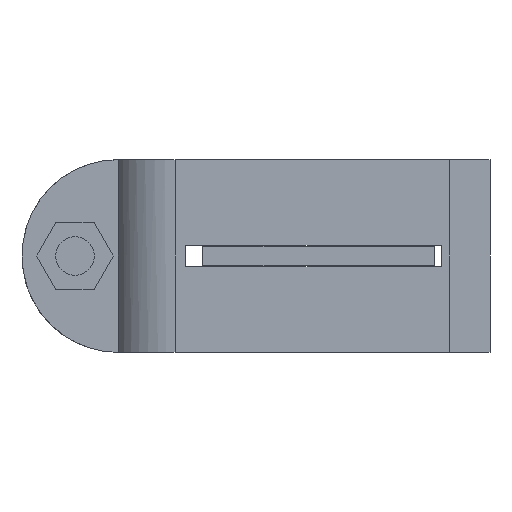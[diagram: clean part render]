
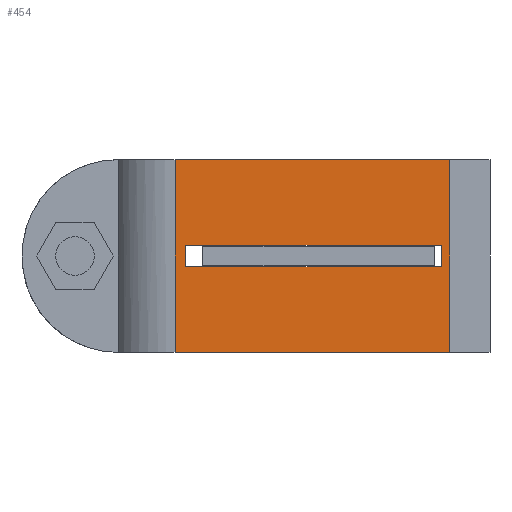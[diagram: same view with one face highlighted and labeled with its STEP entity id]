
A CAD part, front view. The second image highlights one B-rep face of the part: STEP entity #454.
In plain terms, the highlighted planar face has unit normal (0, -1, 0).
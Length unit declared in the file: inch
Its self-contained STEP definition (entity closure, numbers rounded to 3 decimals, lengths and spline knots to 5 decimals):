
#394=EDGE_CURVE('',#1012,#1013,#1014,.T.);
#454=ADVANCED_FACE('',(#1109,#1110),#1111,.T.);
#512=EDGE_CURVE('',#1191,#1192,#1193,.T.);
#562=EDGE_CURVE('',#977,#1192,#1267,.T.);
#598=EDGE_CURVE('',#1316,#1012,#1317,.T.);
#600=EDGE_CURVE('',#977,#1311,#1319,.T.);
#652=EDGE_CURVE('',#1311,#1191,#1389,.T.);
#710=EDGE_CURVE('',#1278,#1316,#1461,.T.);
#716=EDGE_CURVE('',#1013,#1278,#1467,.T.);
#977=VERTEX_POINT('',#1808);
#1012=VERTEX_POINT('',#1861);
#1013=VERTEX_POINT('',#1862);
#1014=LINE('',#1863,#1864);
#1109=FACE_BOUND('',#2014,.T.);
#1110=FACE_OUTER_BOUND('',#2015,.T.);
#1111=PLANE('',#2016);
#1191=VERTEX_POINT('',#2149);
#1192=VERTEX_POINT('',#2150);
#1193=LINE('',#2151,#2152);
#1267=LINE('',#2279,#2280);
#1278=VERTEX_POINT('',#2297);
#1311=VERTEX_POINT('',#2346);
#1316=VERTEX_POINT('',#2352);
#1317=LINE('',#2353,#2354);
#1319=LINE('',#2357,#2358);
#1389=LINE('',#2490,#2491);
#1461=LINE('',#2617,#2618);
#1467=LINE('',#2629,#2630);
#1808=CARTESIAN_POINT('',(0.77397,0.42474,0.00009));
#1861=CARTESIAN_POINT('',(0.84444,0.42474,0.55499));
#1862=CARTESIAN_POINT('',(0.84444,0.42474,0.69499));
#1863=CARTESIAN_POINT('',(0.84444,0.42474,0.31249));
#1864=VECTOR('',#3141,1.0);
#2014=EDGE_LOOP('',(#3233,#3234,#3235,#3236));
#2015=EDGE_LOOP('',(#3237,#3238,#3239,#3240));
#2016=AXIS2_PLACEMENT_3D('',#3241,#3242,#3243);
#2149=CARTESIAN_POINT('',(2.74014,0.42474,1.24989));
#2150=CARTESIAN_POINT('',(0.77397,0.42474,1.24989));
#2151=CARTESIAN_POINT('',(1.69801,0.42474,1.24989));
#2152=VECTOR('',#3334,1.0);
#2279=CARTESIAN_POINT('',(0.77397,0.42474,0.0));
#2280=VECTOR('',#3407,1.0);
#2297=CARTESIAN_POINT('',(2.49824,0.42474,0.69499));
#2346=CARTESIAN_POINT('',(2.74014,0.42474,0.00009));
#2352=CARTESIAN_POINT('',(2.49824,0.42474,0.55499));
#2353=CARTESIAN_POINT('',(1.7142,0.42474,0.55499));
#2354=VECTOR('',#3460,1.0);
#2357=CARTESIAN_POINT('',(1.69801,0.42474,0.00009));
#2358=VECTOR('',#3461,1.0);
#2490=CARTESIAN_POINT('',(2.74014,0.42474,0.0));
#2491=VECTOR('',#3562,1.0);
#2617=CARTESIAN_POINT('',(2.49824,0.42474,0.31249));
#2618=VECTOR('',#3642,1.0);
#2629=CARTESIAN_POINT('',(1.7142,0.42474,0.69499));
#2630=VECTOR('',#3645,1.0);
#3141=DIRECTION('',(0.0,0.0,1.0));
#3233=ORIENTED_EDGE('',*,*,#710,.T.);
#3234=ORIENTED_EDGE('',*,*,#598,.T.);
#3235=ORIENTED_EDGE('',*,*,#394,.T.);
#3236=ORIENTED_EDGE('',*,*,#716,.T.);
#3237=ORIENTED_EDGE('',*,*,#512,.T.);
#3238=ORIENTED_EDGE('',*,*,#562,.F.);
#3239=ORIENTED_EDGE('',*,*,#600,.T.);
#3240=ORIENTED_EDGE('',*,*,#652,.T.);
#3241=CARTESIAN_POINT('',(1.75705,0.42474,0.0));
#3242=DIRECTION('',(0.0,-1.0,0.0));
#3243=DIRECTION('',(1.0,0.0,0.0));
#3334=DIRECTION('',(-1.0,0.0,0.0));
#3407=DIRECTION('',(0.0,0.0,1.0));
#3460=DIRECTION('',(-1.0,0.0,0.0));
#3461=DIRECTION('',(1.0,0.0,0.0));
#3562=DIRECTION('',(0.0,0.0,1.0));
#3642=DIRECTION('',(0.0,0.0,-1.0));
#3645=DIRECTION('',(1.0,0.0,0.0));
